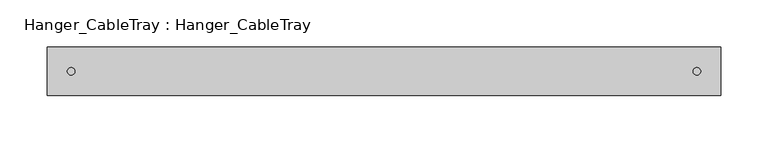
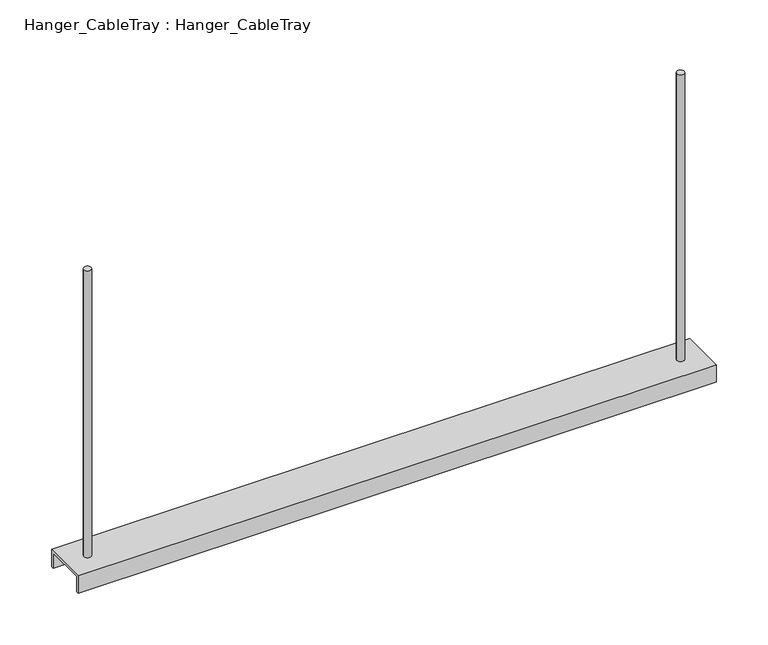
"""IFC4 building model written with IfcOpenShell, lengths in millimetres: cable carrier fitting geometry, Hanger_CableTray : Hanger_CableTray."""

from ifc_helpers import new_model, si_unit, frame, origin, place, context, project, spatial, circle_curve, source, transform, mapped, element, save
from ifc_brep_helpers import plane_surface, cylinder_surface, advanced_brep


def hanger_cabletray_hanger_cabletray_7256ed64(model_context):
    return source(origin(), model_context, "Body", "AdvancedBrep", [
        advanced_brep(
        [(-333.96875, 0.0, 25.0), (-326.03125, 0.0, 25.0), (-333.96875, 0.0, 383.0), (-326.03125, 0.0, 383.0), (-333.96875, 0.0, 45.3398437), (-326.03125, 0.0, 45.3398437), (-326.03125, 0.0, 42.7601562), (-333.96875, 0.0, 42.7601562), (355.0, -25.5, 45.3398437), (355.0, -25.5, 25.0), (355.0, -22.5, 25.0), (355.0, -22.5, 42.7601562), (355.0, 22.5, 42.7601562), (355.0, 22.5, 25.0), (355.0, 25.5, 25.0), (355.0, 25.5, 45.3398437), (-355.0, -25.5, 45.3398437), (-355.0, 25.5, 45.3398437), (-355.0, 25.5, 25.0), (-355.0, 22.5, 25.0), (-355.0, 22.5, 42.7601562), (-355.0, -22.5, 42.7601562), (-355.0, -22.5, 25.0), (-355.0, -25.5, 25.0), (333.96875, 0.0, 45.3398437), (326.03125, 0.0, 45.3398437), (326.03125, 0.0, 25.0), (333.96875, 0.0, 25.0), (326.03125, 0.0, 383.0), (333.96875, 0.0, 383.0), (333.96875, 0.0, 42.7601562), (326.03125, 0.0, 42.7601562)],
        [
            (0, 1, circle_curve(frame((-330.0, 0.0, 25.0), z_axis=(0.0, 0.0, -1.0), x_axis=(1.0, 0.0, 0.0)), 3.96875)),
            (1, 0, circle_curve(frame((-330.0, 0.0, 25.0), z_axis=(0.0, 0.0, -1.0), x_axis=(1.0, 0.0, 0.0)), 3.96875)),
            (2, 3, circle_curve(frame((-330.0, 0.0, 383.0), z_axis=(0.0, 0.0, 1.0), x_axis=(1.0, 0.0, 0.0)), 3.96875)),
            (3, 2, circle_curve(frame((-330.0, 0.0, 383.0), z_axis=(0.0, 0.0, 1.0), x_axis=(1.0, 0.0, 0.0)), 3.96875)),
            (2, 4),
            (4, 5, circle_curve(frame((-330.0, 0.0, 45.3398437), z_axis=(0.0, 0.0, 1.0), x_axis=(1.0, 0.0, 0.0)), 3.96875)),
            (5, 3),
            (1, 6),
            (6, 7, circle_curve(frame((-330.0, 0.0, 42.7601562), z_axis=(0.0, 0.0, -1.0), x_axis=(1.0, 0.0, 0.0)), 3.96875)),
            (7, 0),
            (5, 4, circle_curve(frame((-330.0, 0.0, 45.3398437), z_axis=(0.0, 0.0, 1.0), x_axis=(1.0, 0.0, 0.0)), 3.96875)),
            (7, 6, circle_curve(frame((-330.0, 0.0, 42.7601562), z_axis=(0.0, 0.0, -1.0), x_axis=(1.0, 0.0, 0.0)), 3.96875)),
            (8, 9),
            (9, 10),
            (10, 11),
            (11, 12),
            (12, 13),
            (13, 14),
            (14, 15),
            (15, 8),
            (16, 17),
            (17, 18),
            (18, 19),
            (19, 20),
            (20, 21),
            (21, 22),
            (22, 23),
            (23, 16),
            (8, 16),
            (23, 9),
            (13, 19),
            (18, 14),
            (17, 15),
            (24, 25, circle_curve(frame((330.0, 0.0, 45.3398437), z_axis=(0.0, 0.0, -1.0), x_axis=(1.0, 0.0, 0.0)), 3.96875)),
            (25, 24, circle_curve(frame((330.0, 0.0, 45.3398437), z_axis=(0.0, 0.0, -1.0), x_axis=(1.0, 0.0, 0.0)), 3.96875)),
            (26, 27, circle_curve(frame((330.0, 0.0, 25.0), z_axis=(0.0, 0.0, -1.0), x_axis=(1.0, 0.0, 0.0)), 3.96875)),
            (27, 26, circle_curve(frame((330.0, 0.0, 25.0), z_axis=(0.0, 0.0, -1.0), x_axis=(1.0, 0.0, 0.0)), 3.96875)),
            (28, 29, circle_curve(frame((330.0, 0.0, 383.0), z_axis=(0.0, 0.0, 1.0), x_axis=(1.0, 0.0, 0.0)), 3.96875)),
            (29, 28, circle_curve(frame((330.0, 0.0, 383.0), z_axis=(0.0, 0.0, 1.0), x_axis=(1.0, 0.0, 0.0)), 3.96875)),
            (28, 25),
            (24, 29),
            (27, 30),
            (30, 31, circle_curve(frame((330.0, 0.0, 42.7601562), z_axis=(0.0, 0.0, -1.0), x_axis=(1.0, 0.0, 0.0)), 3.96875)),
            (31, 26),
            (31, 30, circle_curve(frame((330.0, 0.0, 42.7601562), z_axis=(0.0, 0.0, -1.0), x_axis=(1.0, 0.0, 0.0)), 3.96875)),
            (22, 10),
            (21, 11),
            (20, 12),
        ],
        [
            plane_surface(frame((-326.03125, 0.0, 25.0), z_axis=(0.0, 0.0, -1.0), x_axis=(0.0, -1.0, 0.0))),
            plane_surface(frame((-326.03125, 0.0, 383.0), z_axis=(0.0, 0.0, 1.0), x_axis=(0.0, 1.0, 0.0))),
            cylinder_surface(frame((-330.0, 0.0, 25.0), z_axis=(0.0, 0.0, 1.0), x_axis=(1.0, 0.0, 0.0)), 3.96875),
            plane_surface(frame((355.0, -25.5, 45.3398437), z_axis=(1.0, 0.0, 0.0), x_axis=(0.0, 0.0, -1.0))),
            plane_surface(frame((-355.0, -25.5, 45.3398437), z_axis=(-1.0, 0.0, 0.0), x_axis=(0.0, 0.0, 1.0))),
            plane_surface(frame((355.0, -25.5, 45.3398437), z_axis=(0.0, -1.0, 0.0), x_axis=(-1.0, 0.0, 0.0))),
            plane_surface(frame((355.0, 22.5, 25.0), z_axis=(0.0, 0.0, -1.0), x_axis=(-1.0, 0.0, 0.0))),
            plane_surface(frame((355.0, 25.5, 25.0), z_axis=(0.0, 1.0, 0.0), x_axis=(-1.0, 0.0, 0.0))),
            plane_surface(frame((355.0, 25.5, 45.3398437), z_axis=(0.0, 0.0, 1.0), x_axis=(-1.0, 0.0, 0.0))),
            plane_surface(frame((333.96875, 0.0, 25.0), z_axis=(0.0, 0.0, -1.0), x_axis=(0.0, -1.0, 0.0))),
            plane_surface(frame((333.96875, 0.0, 383.0), z_axis=(0.0, 0.0, 1.0), x_axis=(0.0, 1.0, 0.0))),
            cylinder_surface(frame((330.0, 0.0, 25.0), z_axis=(0.0, 0.0, 1.0), x_axis=(1.0, 0.0, 0.0)), 3.96875),
            plane_surface(frame((355.0, -25.5, 25.0), z_axis=(0.0, 0.0, -1.0), x_axis=(-1.0, 0.0, 0.0))),
            plane_surface(frame((355.0, -22.5, 25.0), z_axis=(0.0, 1.0, 0.0), x_axis=(-1.0, 0.0, 0.0))),
            plane_surface(frame((355.0, -22.5, 42.7601562), z_axis=(0.0, 0.0, -1.0), x_axis=(-1.0, 0.0, 0.0))),
            plane_surface(frame((355.0, 22.5, 42.7601562), z_axis=(0.0, -1.0, 0.0), x_axis=(-1.0, 0.0, 0.0))),
        ],
        [
            (0, [[1, 2]]),
            (1, [[3, 4]]),
            (2, [[-3, 5, 6, 7]]),
            (2, [[-2, 8, 9, 10]]),
            (2, [[-4, -7, 11, -5]]),
            (2, [[-1, -10, 12, -8]]),
            (3, [[13, 14, 15, 16, 17, 18, 19, 20]]),
            (4, [[21, 22, 23, 24, 25, 26, 27, 28]]),
            (5, [[-13, 29, -28, 30]]),
            (6, [[-18, 31, -23, 32]]),
            (7, [[-19, -32, -22, 33]]),
            (8, [[-20, -33, -21, -29], [-6, -11], [34, 35]]),
            (9, [[36, 37]]),
            (10, [[38, 39]]),
            (11, [[-38, 40, -34, 41]]),
            (11, [[-37, 42, 43, 44]]),
            (11, [[-39, -41, -35, -40]]),
            (11, [[-36, -44, 45, -42]]),
            (12, [[-14, -30, -27, 46]]),
            (13, [[-15, -46, -26, 47]]),
            (14, [[-16, -47, -25, 48], [-9, -12], [-43, -45]]),
            (15, [[-17, -48, -24, -31]]),
        ],
    ),
    ])


if __name__ == "__main__":
    model = new_model("IFC4")
    model_context = context("Model", 3, world=origin())
    ifc_project = project(units=[si_unit("LENGTHUNIT", "METRE", prefix="MILLI")], contexts=[model_context])
    site = spatial("IfcSite", under=ifc_project)
    building = spatial("IfcBuilding", under=site)
    placement = place(None, origin())
    hanger_cabletray_hanger_cabletray_shape = hanger_cabletray_hanger_cabletray_7256ed64(model_context)
    element("IfcCableCarrierFitting", 1, ObjectType="Hanger_CableTray : Hanger_CableTray", at=placement, inside=building, context=model_context, shape_type="MappedRepresentation", body=[
        mapped(hanger_cabletray_hanger_cabletray_shape, transform((0.0, 0.0, 0.0), x_axis=(1.0, 0.0, 0.0), y_axis=(0.0, 1.0, 0.0), z_axis=(0.0, 0.0, 1.0))),
    ])
    save(model, "model.ifc")
